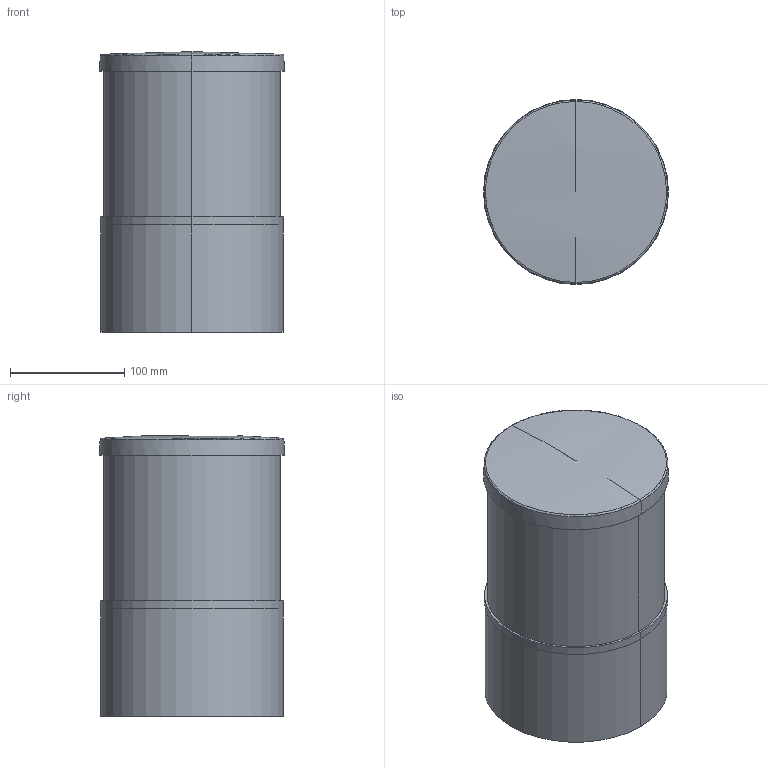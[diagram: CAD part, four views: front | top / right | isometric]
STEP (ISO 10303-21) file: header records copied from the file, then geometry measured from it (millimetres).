
FILE_DESCRIPTION(/* description */ (''),/* implementation_level */ '2;1');
FILE_NAME(/* name */ 'C:\Users\Franco Sartori E\Documents\FARO\DUPLICADO\Modelos\01_Digitalizados\2021\0_SCREEN\03_Publicación\POST\751000.stp',/* time_stamp */ '2021-01-11T09:59:37+01:00',/* author */ ('Franco Sartori E'),/* organization */ (''),/* preprocessor_version */ 'ST-DEVELOPER v18.1',/* originating_system */ 'AutoCAD Mechanical',/* authorisation */ '');
FILE_SCHEMA (('AUTOMOTIVE_DESIGN { 1 0 10303 214 3 1 1 }'));
Length unit declared in the file: millimetre
Products named in the file (2): Product; 1_SCREEN - SCREEN-462379-Export
Assembly tree (1 placements, depth 2):
  Product
    1_SCREEN - SCREEN-462379-Export
Bounding box: 162 x 162 x 245.78 mm (x, y, z)
Volume: 926213.4 mm3; surface area: 557234.9 mm2
Topology: 9 solids, 9 shells, 340 faces, 916 edges, 566 vertices
Faces by surface type: cylinder 154, plane 140, cone 28, torus 12, sphere 6
Entity records: 11673 total; most frequent: CARTESIAN_POINT 2949, DIRECTION 1859, ORIENTED_EDGE 1824, EDGE_CURVE 912, AXIS2_PLACEMENT_3D 679, VERTEX_POINT 566, LINE 501, VECTOR 501
